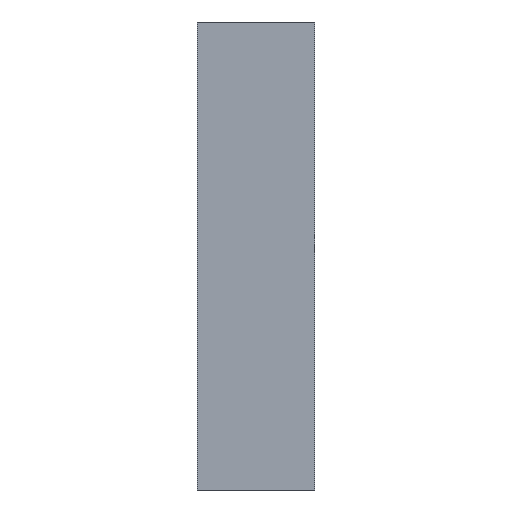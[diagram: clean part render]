
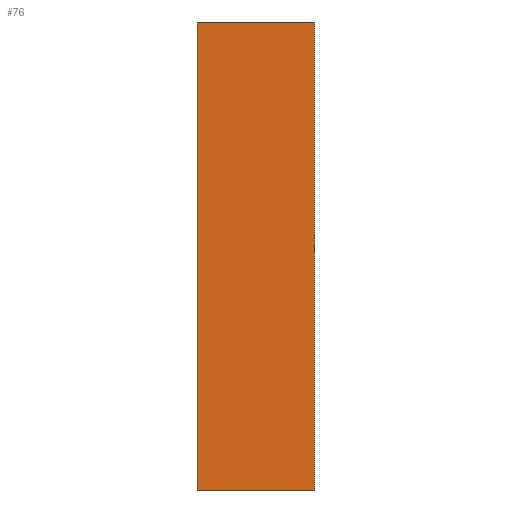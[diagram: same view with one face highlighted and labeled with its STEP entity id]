
A CAD part, left-side view. The second image highlights one B-rep face of the part: STEP entity #76.
In plain terms, the highlighted planar face has unit normal (-1, 0, 0).
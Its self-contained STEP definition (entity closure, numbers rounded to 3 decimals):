
#76=ADVANCED_FACE('',(#126),#128,.T.);
#126=FACE_BOUND('',#127,.T.);
#127=EDGE_LOOP('',(#162,#163,#164,#165));
#128=PLANE('',#129);
#129=AXIS2_PLACEMENT_3D('',#130,#131,#132);
#130=CARTESIAN_POINT('',(0.,3.,0.));
#131=DIRECTION('',(-1.,0.,0.));
#132=DIRECTION('',(0.,-1.,0.));
#162=ORIENTED_EDGE('',*,*,#186,.T.);
#163=ORIENTED_EDGE('',*,*,#181,.T.);
#164=ORIENTED_EDGE('',*,*,#187,.T.);
#165=ORIENTED_EDGE('',*,*,#183,.F.);
#181=EDGE_CURVE('',#190,#195,#197,.T.);
#183=EDGE_CURVE('',#199,#201,#202,.T.);
#186=EDGE_CURVE('',#199,#190,#206,.F.);
#187=EDGE_CURVE('',#195,#201,#207,.T.);
#190=VERTEX_POINT('',#210);
#195=VERTEX_POINT('',#219);
#197=LINE('',#223,#224);
#199=VERTEX_POINT('',#227);
#201=VERTEX_POINT('',#231);
#202=LINE('',#232,#233);
#206=LINE('',#242,#243);
#207=LINE('',#245,#246);
#210=CARTESIAN_POINT('',(0.,1.5,0.));
#219=CARTESIAN_POINT('',(0.,0.,0.));
#223=CARTESIAN_POINT('',(0.,1.5,0.));
#224=VECTOR('',#225,1.);
#225=DIRECTION('',(0.,-1.,0.));
#227=CARTESIAN_POINT('',(0.,1.5,6.));
#231=CARTESIAN_POINT('',(0.,0.,6.));
#232=CARTESIAN_POINT('',(0.,1.5,6.));
#233=VECTOR('',#234,1.);
#234=DIRECTION('',(0.,-1.,0.));
#242=CARTESIAN_POINT('',(0.,1.5,0.));
#243=VECTOR('',#244,1.);
#244=DIRECTION('',(0.,0.,1.));
#245=CARTESIAN_POINT('',(0.,0.,0.));
#246=VECTOR('',#247,1.);
#247=DIRECTION('',(0.,0.,1.));
